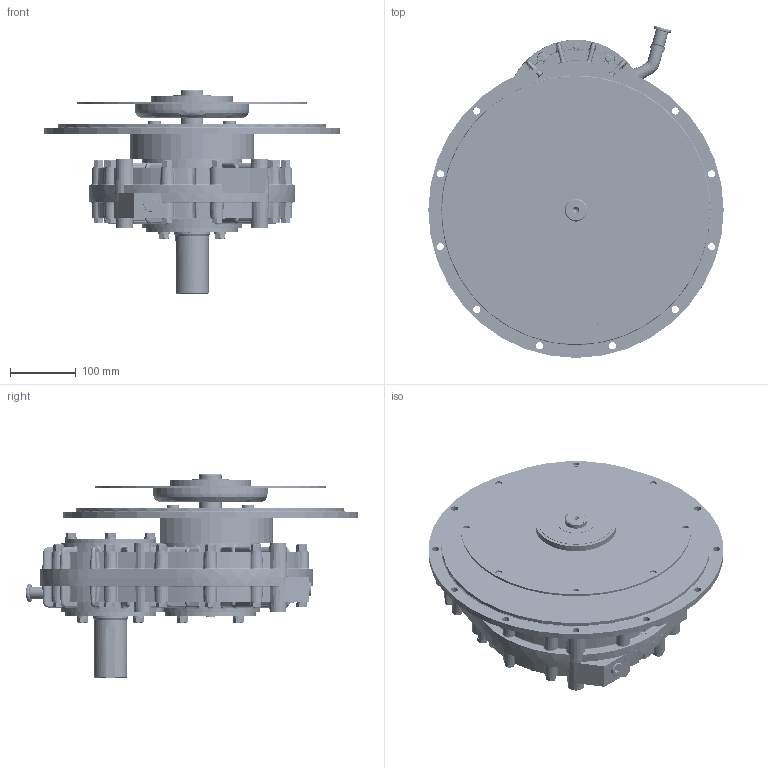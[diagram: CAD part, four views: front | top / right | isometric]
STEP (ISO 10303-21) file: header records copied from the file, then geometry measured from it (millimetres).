
FILE_DESCRIPTION (( 'STEP AP214' ), '1' );
FILE_NAME ('D101A119001.STEP', '2017-04-06T12:21:52', ( 'MikeMihajlovic' ), ( 'Microsoft' ), 'SwSTEP 2.0', 'SolidWorks 2016', '' );
FILE_SCHEMA (( 'AUTOMOTIVE_DESIGN' ));
Length unit declared in the file: inch
Products named in the file (38): D101101D_ASM_1; RD101001_AF1; RD101001_AF0_1; D101101C_ASM; D101101D_ASM; D101109; D101018_5; D101A119001; DP11_5_ASM_1; DS90081A106_30; DP11_5-2_1; HNZ_38-16_8; DP11_5-1_1; HHCSZ_38-16X3_50_1; DP11_5-4_1; NP266409-1_27; DP11_5-3_1; PPSKM_50-14_3; OS1_500X2_000-1_1; PPSKG_38-18_12; D101116; AV313650_5; DWL_38X1_00_7; STEL_38NPT45; SHCS_50-13X1_00_1; PN_38NPTX1_50_1; D17-3-DP_1; PPSKG_25-18_6; HHCSZ_38-16X1_00_3; OS2_125X2_875-2_3; LWZ_38_22; D101112_3; SHCS_38-16X1_50_1; D201011_3; D101117; SH1252594_5; D101111; D101101C_ASM_1
Assembly tree (103 placements, depth 3):
  D101A119001
    D101101D_ASM_1
      D101101D_ASM
      RD101001_AF0_1
    D101111
    D101117
    SHCS_38-16X1_50_1  x4
    LWZ_38_22  x24
    HHCSZ_38-16X1_00_3  x12
    D17-3-DP_1
    SHCS_50-13X1_00_1  x4
    DWL_38X1_00_7  x2
    D101116
    OS1_500X2_000-1_1
    DP11_5_ASM_1
      DP11_5-3_1
      DP11_5-4_1
      DP11_5-1_1
      DP11_5-2_1
    D101018_5  x2
    D101109
    D101101C_ASM_1
      D101101C_ASM
      RD101001_AF1
    SH1252594_5  x2
    D201011_3
    D101112_3
    OS2_125X2_875-2_3
    PPSKG_25-18_6
    PN_38NPTX1_50_1
    STEL_38NPT45
    AV313650_5
    PPSKG_38-18_12
    PPSKM_50-14_3
    NP266409-1_27
    HHCSZ_38-16X3_50_1  x12
    HNZ_38-16_8  x12
    DS90081A106_30  x2
Bounding box: 450.85 x 506.84 x 312.18 mm (x, y, z)
Volume: 5736637.6 mm3; surface area: 1738278.7 mm2
Topology: 58 solids, 171 shells, 3916 faces, 10057 edges, 6379 vertices
Faces by surface type: plane 1655, cylinder 1002, bspline 712, cone 547
Entity records: 137876 total; most frequent: CARTESIAN_POINT 69299, ORIENTED_EDGE 14875, DIRECTION 12297, EDGE_CURVE 7530, VERTEX_POINT 4879, AXIS2_PLACEMENT_3D 4370, VECTOR 3557, LINE 3557
